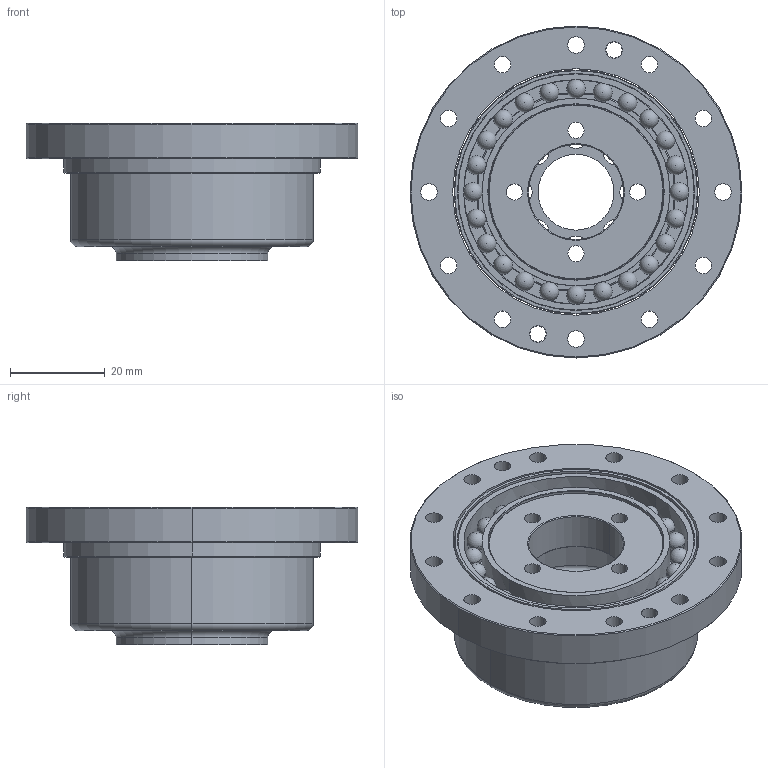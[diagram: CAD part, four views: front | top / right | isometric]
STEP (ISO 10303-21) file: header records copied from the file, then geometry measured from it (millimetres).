
FILE_DESCRIPTION (( 'STEP AP203' ), '1' );
FILE_NAME ('PGK 21-100-00.STEP', '2022-08-05T17:04:14', ( '' ), ( '' ), 'SwSTEP 2.0', 'SolidWorks 2018', '' );
FILE_SCHEMA (( 'CONFIG_CONTROL_DESIGN' ));
Length unit declared in the file: millimetre
Products named in the file (5): PGK21-100-02; PGK 21-100-00; PGK21-100-03; PGK 21-100-01; PGK21-100-04
Assembly tree (4 placements, depth 2):
  PGK 21-100-00
    PGK21-100-04
    PGK21-100-03
    PGK 21-100-01
    PGK21-100-02
Bounding box: 70 x 70 x 29 mm (x, y, z)
Volume: 27311.6 mm3; surface area: 30689.9 mm2
Topology: 4 solids, 4 shells, 189 faces, 683 edges, 459 vertices
Faces by surface type: cylinder 88, sphere 48, cone 18, plane 17, torus 14, bspline 4
Entity records: 9698 total; most frequent: CARTESIAN_POINT 3907, DIRECTION 1132, ORIENTED_EDGE 1086, EDGE_CURVE 543, AXIS2_PLACEMENT_3D 510, VERTEX_POINT 367, CIRCLE 318, EDGE_LOOP 306
